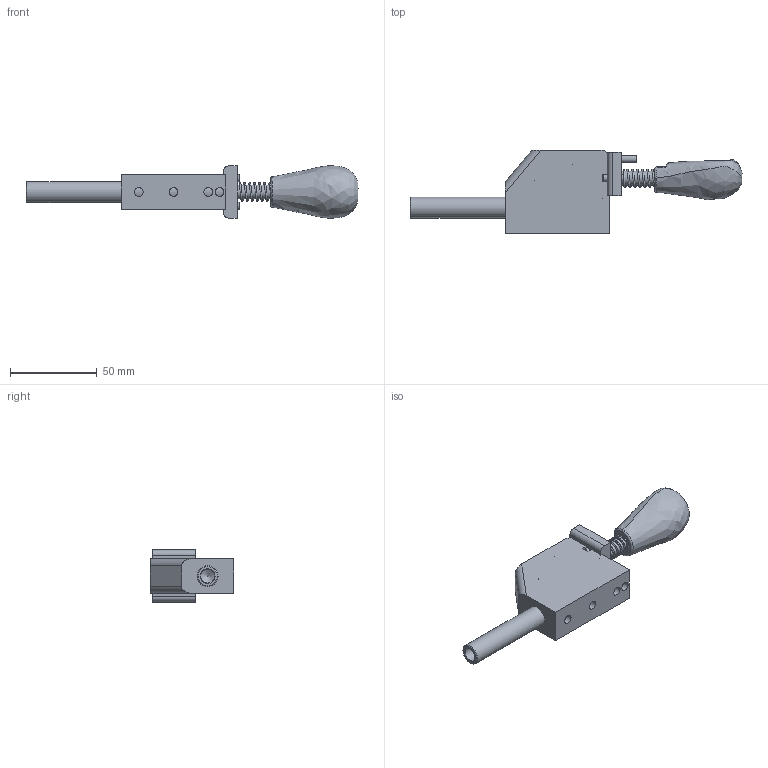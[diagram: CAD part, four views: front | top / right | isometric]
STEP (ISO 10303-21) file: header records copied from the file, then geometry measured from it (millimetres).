
FILE_DESCRIPTION(/* description */ (''),/* implementation_level */ '2;1');
FILE_NAME(/* name */ '\\192.168.1.150\pc03\Inventor\デュアルメカニズムクランプ最終\2017.10月　最新型\YSP-40ST-L\YSP-40ST-L-CLAMP.stp',/* time_stamp */ '2024-05-14T16:35:16+09:00',/* author */ ('Backup'),/* organization */ (''),/* preprocessor_version */ 'ST-DEVELOPER v17',/* originating_system */ 'Autodesk Inventor 2019',/* authorisation */ '');
FILE_SCHEMA (('AUTOMOTIVE_DESIGN { 1 0 10303 214 3 1 1 }'));
Length unit declared in the file: millimetre
Products named in the file (10): YSP-40ST-CLAMP; YO-M35S ボディ; 50-30_VER4_PG2__12; Φ8×40ｼｬﾌﾄ; カム; YO－M３５S スライドバー; φ4×25; φ4×25_1; スプリング; ロック機構
Assembly tree (10 placements, depth 2):
  YSP-40ST-CLAMP
    YO-M35S ボディ
    50-30_VER4_PG2__12
    Φ8×40ｼｬﾌﾄ
    カム
    YO－M３５S スライドバー
    φ4×25  x2
    φ4×25_1
    スプリング
    ロック機構
Bounding box: 191.25 x 48 x 30.18 mm (x, y, z)
Volume: 78724.8 mm3; surface area: 33976.1 mm2
Topology: 10 solids, 10 shells, 229 faces, 623 edges, 412 vertices
Faces by surface type: plane 110, cylinder 82, bspline 25, cone 8, sphere 4
Full cylindrical faces by diameter (mm): 0.01 x11, 1.306 x1, 3.2 x2, 4 x7, 4.1 x1, 4.3 x3, 5.1 x4, 6 x1, 8 x3, 8.1 x1, 12 x2
Entity records: 18854 total; most frequent: CARTESIAN_POINT 12788, ORIENTED_EDGE 1228, DIRECTION 1141, EDGE_CURVE 614, VERTEX_POINT 409, AXIS2_PLACEMENT_3D 409, LINE 323, VECTOR 323
